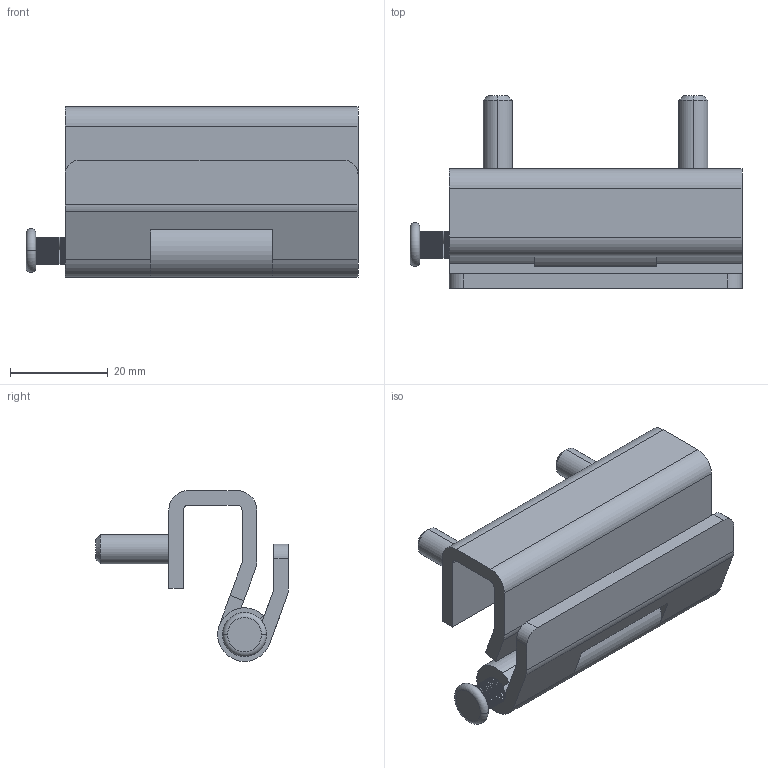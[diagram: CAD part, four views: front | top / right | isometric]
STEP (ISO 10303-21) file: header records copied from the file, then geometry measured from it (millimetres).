
FILE_DESCRIPTION (( 'STEP AP214' ), '1' );
FILE_NAME ('SK2-057.STEP', '2020-04-14T02:43:06', ( 'admin' ), ( 'Microsoft' ), 'SwSTEP 2.0', 'SolidWorks 2018', '' );
FILE_SCHEMA (( 'AUTOMOTIVE_DESIGN' ));
Length unit declared in the file: millimetre
Products named in the file (4): 2-057-F3; 2-057-F2; 2-057-F1; SK2-057
Assembly tree (3 placements, depth 2):
  SK2-057
    2-057-F1
    2-057-F2
    2-057-F3
Bounding box: 68 x 39.5 x 35 mm (x, y, z)
Volume: 19035.3 mm3; surface area: 14661.2 mm2
Topology: 3 solids, 3 shells, 289 faces, 692 edges, 412 vertices
Faces by surface type: plane 249, cylinder 34, cone 4, torus 2
Entity records: 8350 total; most frequent: DIRECTION 1432, CARTESIAN_POINT 1399, ORIENTED_EDGE 1384, EDGE_CURVE 692, LINE 542, VECTOR 542, AXIS2_PLACEMENT_3D 445, VERTEX_POINT 412
